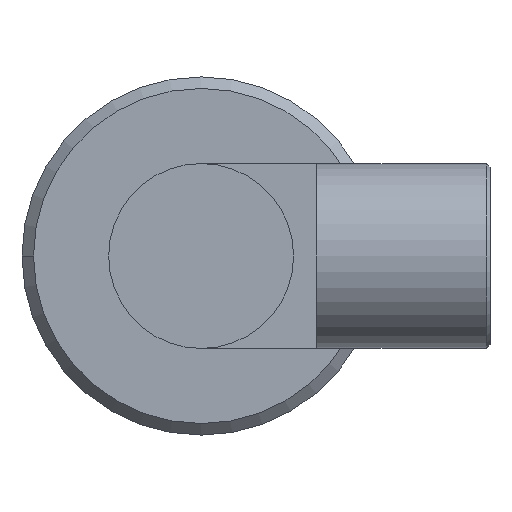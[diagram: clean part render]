
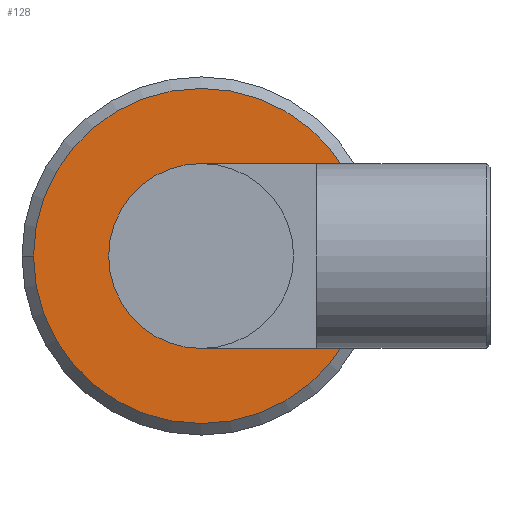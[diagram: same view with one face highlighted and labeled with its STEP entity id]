
A CAD part, left-side view. The second image highlights one B-rep face of the part: STEP entity #128.
In plain terms, the highlighted planar face has unit normal (-1, 0, 0).
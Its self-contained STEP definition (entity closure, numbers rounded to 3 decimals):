
#64 = ORIENTED_EDGE ( 'NONE', *, *, #131, .T. ) ;
#67 = EDGE_CURVE ( 'NONE', #1032, #216, #541, .T. ) ;
#89 = PLANE ( 'NONE',  #368 ) ;
#124 = CARTESIAN_POINT ( 'NONE',  ( -24.026, 0., 0. ) ) ;
#126 = DIRECTION ( 'NONE',  ( 0., -1., 0. ) ) ;
#128 = ADVANCED_FACE ( 'NONE', ( #302, #871 ), #89, .F. ) ;
#131 = EDGE_CURVE ( 'NONE', #601, #899, #313, .T. ) ;
#137 = EDGE_LOOP ( 'NONE', ( #64, #442 ) ) ;
#150 = CARTESIAN_POINT ( 'NONE',  ( -24.026, 0., 0. ) ) ;
#216 = VERTEX_POINT ( 'NONE', #359 ) ;
#246 = DIRECTION ( 'NONE',  ( -1., 0., 0. ) ) ;
#276 = CARTESIAN_POINT ( 'NONE',  ( -24.026, -14.5, 0. ) ) ;
#302 = FACE_BOUND ( 'NONE', #851, .T. ) ;
#313 = CIRCLE ( 'NONE', #897, 14.5 ) ;
#340 = DIRECTION ( 'NONE',  ( 0., -1., 0. ) ) ;
#359 = CARTESIAN_POINT ( 'NONE',  ( -24.026, 8., 0. ) ) ;
#368 = AXIS2_PLACEMENT_3D ( 'NONE', #1045, #411, #1028 ) ;
#387 = CIRCLE ( 'NONE', #671, 14.5 ) ;
#403 = EDGE_CURVE ( 'NONE', #899, #601, #387, .T. ) ;
#411 = DIRECTION ( 'NONE',  ( 1., 0., 0. ) ) ;
#415 = DIRECTION ( 'NONE',  ( 0., -1., 0. ) ) ;
#425 = CARTESIAN_POINT ( 'NONE',  ( -24.026, 0., 0. ) ) ;
#442 = ORIENTED_EDGE ( 'NONE', *, *, #403, .T. ) ;
#465 = AXIS2_PLACEMENT_3D ( 'NONE', #150, #757, #852 ) ;
#483 = ORIENTED_EDGE ( 'NONE', *, *, #1072, .F. ) ;
#511 = CARTESIAN_POINT ( 'NONE',  ( -24.026, -8., 0. ) ) ;
#541 = CIRCLE ( 'NONE', #465, 8. ) ;
#601 = VERTEX_POINT ( 'NONE', #950 ) ;
#636 = DIRECTION ( 'NONE',  ( -1., 0., 0. ) ) ;
#671 = AXIS2_PLACEMENT_3D ( 'NONE', #124, #636, #126 ) ;
#757 = DIRECTION ( 'NONE',  ( -1., 0., 0. ) ) ;
#774 = CARTESIAN_POINT ( 'NONE',  ( -24.026, 0., 0. ) ) ;
#851 = EDGE_LOOP ( 'NONE', ( #1049, #483 ) ) ;
#852 = DIRECTION ( 'NONE',  ( 0., -1., 0. ) ) ;
#871 = FACE_OUTER_BOUND ( 'NONE', #137, .T. ) ;
#893 = CIRCLE ( 'NONE', #990, 8. ) ;
#897 = AXIS2_PLACEMENT_3D ( 'NONE', #774, #246, #340 ) ;
#899 = VERTEX_POINT ( 'NONE', #276 ) ;
#942 = DIRECTION ( 'NONE',  ( -1., 0., 0. ) ) ;
#950 = CARTESIAN_POINT ( 'NONE',  ( -24.026, 14.5, 0. ) ) ;
#990 = AXIS2_PLACEMENT_3D ( 'NONE', #425, #942, #415 ) ;
#1028 = DIRECTION ( 'NONE',  ( 0., 1., 0. ) ) ;
#1032 = VERTEX_POINT ( 'NONE', #511 ) ;
#1045 = CARTESIAN_POINT ( 'NONE',  ( -24.026, 14.5, 0. ) ) ;
#1049 = ORIENTED_EDGE ( 'NONE', *, *, #67, .F. ) ;
#1072 = EDGE_CURVE ( 'NONE', #216, #1032, #893, .T. ) ;
